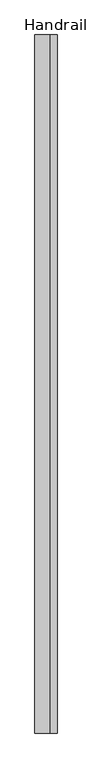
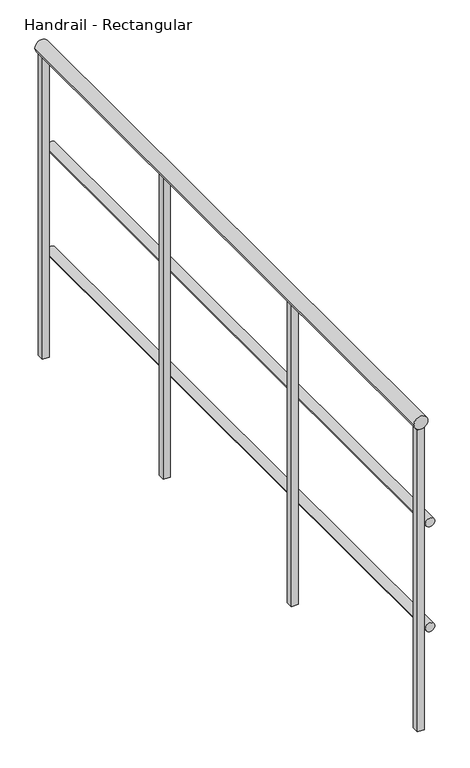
"""IFC4 building model written with IfcOpenShell, lengths in millimetres: railing geometry, Handrail - Rectangular."""

from ifc_helpers import new_model, si_unit, point, frame, frame_2d, origin, place, context, project, spatial, polyline, circle_curve, trimmed, segment, composite_curve, outline, extrude, source, transform, mapped, element, save


def handrail_rectangular_d618f92a(model_context):
    return source(origin(), model_context, "Body", "SweptSolid", [
        extrude(outline(composite_curve([segment(trimmed(circle_curve(frame_2d((9740.9, 2322.5410437)), 12.7), [point((9740.9, 2335.2410437))], [point((9740.9, 2309.8410437))], False, "CARTESIAN"), True, "CONTINUOUS"), segment(trimmed(circle_curve(frame_2d((9740.9, 2322.5410437)), 12.7), [point((9740.9, 2309.8410437))], [point((9740.9, 2335.2410437))], False, "CARTESIAN"), True, "CONTINUOUS")], self_intersect=False)), frame((0.0, -33825.9683133, 0.0), z_axis=(0.0, 1.0, 0.0), x_axis=(0.0, 0.0, 1.0)), (0.0, 0.0, 1.0), 1803.4),
        extrude(outline(composite_curve([segment(trimmed(circle_curve(frame_2d((9436.1, 2322.5410437)), 12.7), [point((9436.1, 2335.2410437))], [point((9436.1, 2309.8410437))], False, "CARTESIAN"), True, "CONTINUOUS"), segment(trimmed(circle_curve(frame_2d((9436.1, 2322.5410437)), 12.7), [point((9436.1, 2309.8410437))], [point((9436.1, 2335.2410437))], False, "CARTESIAN"), True, "CONTINUOUS")], self_intersect=False)), frame((0.0, -33825.9683133, 0.0), z_axis=(0.0, 1.0, 0.0), x_axis=(0.0, 0.0, 1.0)), (0.0, 0.0, 1.0), 1803.4),
        extrude(outline(composite_curve([segment(trimmed(circle_curve(frame_2d((10039.35, 2297.1410437)), 19.05), [point((10039.35, 2316.1910437))], [point((10039.35, 2278.0910437))], False, "CARTESIAN"), True, "CONTINUOUS"), segment(trimmed(circle_curve(frame_2d((10039.35, 2297.1410437)), 19.05), [point((10039.35, 2278.0910437))], [point((10039.35, 2316.1910437))], False, "CARTESIAN"), True, "CONTINUOUS")], self_intersect=False)), frame((0.0, -33825.9683133, 0.0), z_axis=(0.0, 1.0, 0.0), x_axis=(0.0, 0.0, 1.0)), (0.0, 0.0, 1.0), 1803.4),
        extrude(outline(polyline([(2287.6160437, -32616.2933133), (2287.6160437, -32597.2433133), (2306.6660437, -32597.2433133), (2306.6660437, -32616.2933133), (2287.6160437, -32616.2933133)])), frame((0.0, 0.0, 9144.0), z_axis=(0.0, 0.0, 1.0), x_axis=(1.0, 0.0, 0.0)), (0.0, 0.0, 1.0), 876.3),
        extrude(outline(polyline([(2287.6160437, -33225.8933133), (2287.6160437, -33206.8433133), (2306.6660437, -33206.8433133), (2306.6660437, -33225.8933133), (2287.6160437, -33225.8933133)])), frame((0.0, 0.0, 9144.0), z_axis=(0.0, 0.0, 1.0), x_axis=(1.0, 0.0, 0.0)), (0.0, 0.0, 1.0), 876.3),
        extrude(outline(polyline([(2287.6160437, -32041.6183133), (2287.6160437, -32022.5683133), (2306.6660437, -32022.5683133), (2306.6660437, -32041.6183133), (2287.6160437, -32041.6183133)])), frame((0.0, 0.0, 9144.0), z_axis=(0.0, 0.0, 1.0), x_axis=(1.0, 0.0, 0.0)), (0.0, 0.0, 1.0), 876.3),
        extrude(outline(polyline([(2287.6160437, -33825.9683133), (2287.6160437, -33806.9183133), (2306.6660437, -33806.9183133), (2306.6660437, -33825.9683133), (2287.6160437, -33825.9683133)])), frame((0.0, 0.0, 9144.0), z_axis=(0.0, 0.0, 1.0), x_axis=(1.0, 0.0, 0.0)), (0.0, 0.0, 1.0), 876.3),
    ])


if __name__ == "__main__":
    model = new_model("IFC4")
    model_context = context("Model", 3, world=origin())
    ifc_project = project(units=[si_unit("LENGTHUNIT", "METRE", prefix="MILLI")], contexts=[model_context])
    site = spatial("IfcSite", under=ifc_project)
    building = spatial("IfcBuilding", under=site)
    placement = place(None, origin())
    handrail_rectangular_shape = handrail_rectangular_d618f92a(model_context)
    element("IfcRailing", 1, ObjectType="Handrail - Rectangular", at=placement, inside=building, context=model_context, shape_type="MappedRepresentation", body=[
        mapped(handrail_rectangular_shape, transform((0.0, 0.0, 0.0), x_axis=(1.0, 0.0, 0.0), y_axis=(0.0, 1.0, 0.0), z_axis=(0.0, 0.0, 1.0))),
    ])
    save(model, "model.ifc")
